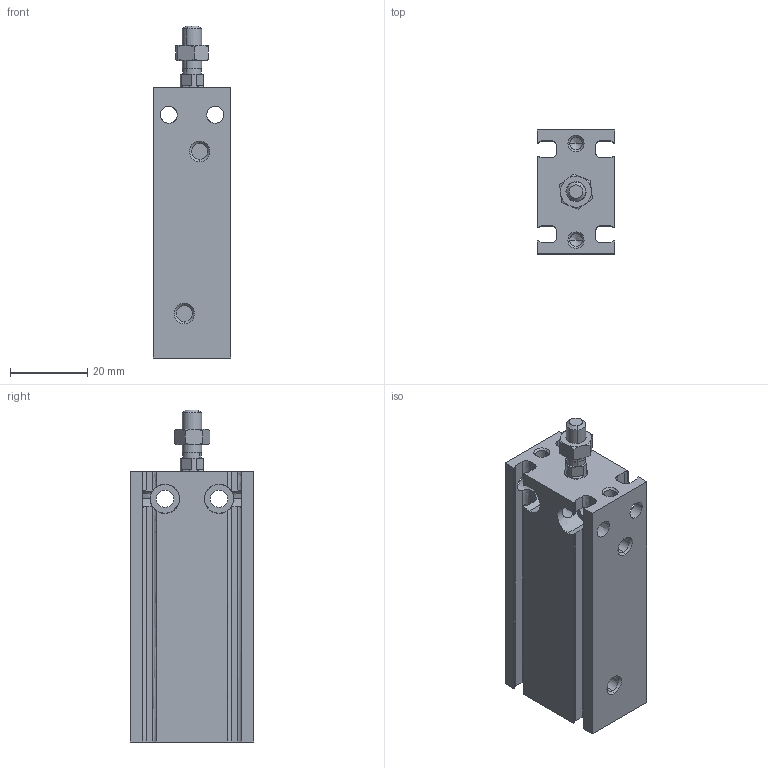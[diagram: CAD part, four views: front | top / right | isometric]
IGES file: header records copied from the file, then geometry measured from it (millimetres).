
Global section: file name: No Iges File Name specified; native system: Autodesk Inventor 2011; preprocessor: AutoDesk Inventor Iges Exporter R2011; author: airolcr1; date: 20110614.145915; units: millimetre
Bounding box: 20 x 32 x 86 mm (x, y, z)
Volume: 36764.3 mm3; surface area: 14902.4 mm2
Topology: 3 solids, 3 shells, 184 faces, 494 edges, 314 vertices
Faces by surface type: bspline 82, plane 54, revolution 28, cone 14, cylinder 6
